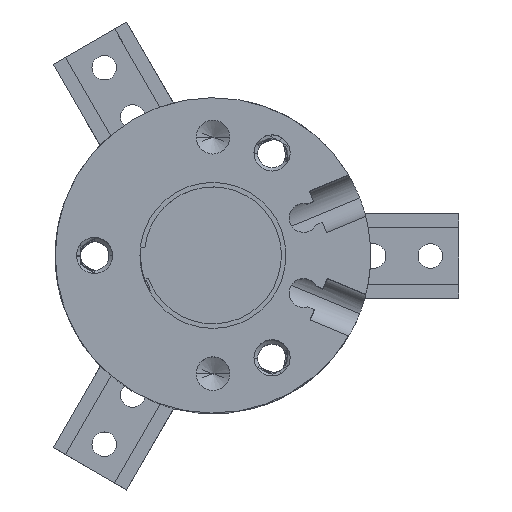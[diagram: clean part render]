
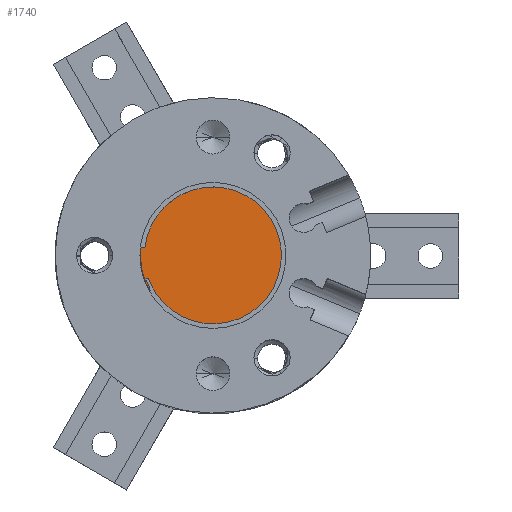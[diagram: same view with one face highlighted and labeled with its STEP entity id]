
A CAD part, top view. The second image highlights one B-rep face of the part: STEP entity #1740.
In plain terms, the highlighted planar face has unit normal (0, 0, 1) as drawn and (0, 0, -1) by its records, which use the part's own axes.
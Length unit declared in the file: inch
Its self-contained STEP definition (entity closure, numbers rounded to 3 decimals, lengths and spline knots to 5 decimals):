
#1520 = CARTESIAN_POINT ( 'NONE',  ( -0.402, 0., 0. ) ) ;
#1732 = EDGE_LOOP ( 'NONE', ( #10119, #10479 ) ) ;
#1740 = ADVANCED_FACE ( 'NONE', ( #2994 ), #7369, .F. ) ;
#1975 = AXIS2_PLACEMENT_3D ( 'NONE', #4256, #11604, #5319 ) ;
#2328 = EDGE_CURVE ( 'NONE', #9823, #6315, #6433, .T. ) ;
#2800 = AXIS2_PLACEMENT_3D ( 'NONE', #13535, #13449, #6460 ) ;
#2994 = FACE_OUTER_BOUND ( 'NONE', #1732, .T. ) ;
#3314 = AXIS2_PLACEMENT_3D ( 'NONE', #8105, #7158, #7189 ) ;
#4256 = CARTESIAN_POINT ( 'NONE',  ( 0., 0., 0. ) ) ;
#5319 = DIRECTION ( 'NONE',  ( 1., 0., 0. ) ) ;
#6071 = EDGE_CURVE ( 'NONE', #6315, #9823, #9029, .T. ) ;
#6315 = VERTEX_POINT ( 'NONE', #7790 ) ;
#6433 = CIRCLE ( 'NONE', #2800, 0.402 ) ;
#6460 = DIRECTION ( 'NONE',  ( 1., 0., 0. ) ) ;
#7158 = DIRECTION ( 'NONE',  ( 0., 0., 1. ) ) ;
#7189 = DIRECTION ( 'NONE',  ( 1., 0., 0. ) ) ;
#7369 = PLANE ( 'NONE',  #3314 ) ;
#7790 = CARTESIAN_POINT ( 'NONE',  ( 0.402, 0., 0. ) ) ;
#8105 = CARTESIAN_POINT ( 'NONE',  ( 0., 0., 0. ) ) ;
#9029 = CIRCLE ( 'NONE', #1975, 0.402 ) ;
#9823 = VERTEX_POINT ( 'NONE', #1520 ) ;
#10119 = ORIENTED_EDGE ( 'NONE', *, *, #2328, .F. ) ;
#10479 = ORIENTED_EDGE ( 'NONE', *, *, #6071, .F. ) ;
#11604 = DIRECTION ( 'NONE',  ( 0., 0., 1. ) ) ;
#13449 = DIRECTION ( 'NONE',  ( 0., 0., 1. ) ) ;
#13535 = CARTESIAN_POINT ( 'NONE',  ( 0., 0., 0. ) ) ;
